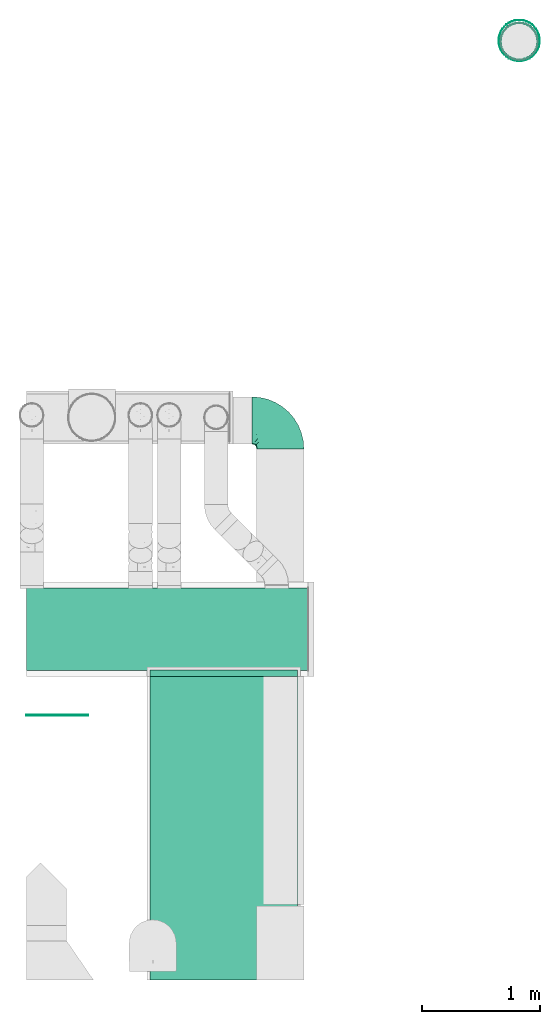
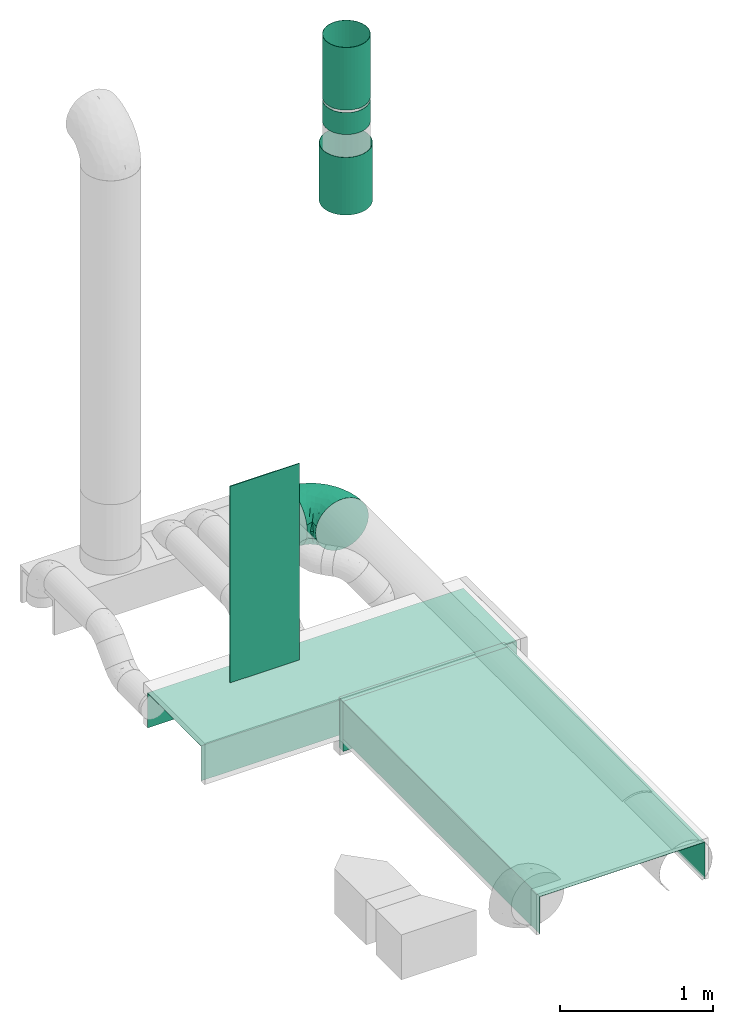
# One storey, part 5 of 9: 5 flow segments, 2 flow fittings, 1 flow terminal.
"""IFC2X3 building model written with IfcOpenShell, lengths in millimetres."""

from ifc_helpers import new_model, entity, si_unit, converted_unit, derived_unit, direction, frame, origin_with_axes, origin_2d_with_axis, place, context, subcontext, project, spatial, hollow_circle, extrude, open_shell, faceted_brep, surface_model, source, transform, mapped, type_object, element, save


model = new_model("IFC2X3")

# Units and contexts
model_context = context("Model", 3, precision=0.01, world=frame((0.0, 4.29681676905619e-09, 0.0)), true_north=direction((4.01073788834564e-13, 1.0)))
plan_context = context("Plan", 3, precision=0.01, world=frame((0.0, 4.29681676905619e-09, 0.0)), true_north=direction((4.01073788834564e-13, 1.0)))
body_context = subcontext(model_context, "Body", "Model", "MODEL_VIEW")
ifc_project = project(units=[converted_unit("PLANEANGLEUNIT", "DEGREE", entity("IfcPositiveLengthMeasure", 0.0174532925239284), si_unit("PLANEANGLEUNIT", "RADIAN"), dimensions=[0, 0, 0, 0, 0, 0, 0]), si_unit("AREAUNIT", "SQUARE_METRE"), si_unit("LENGTHUNIT", "METRE", prefix="MILLI"), si_unit("MASSUNIT", "GRAM", prefix="KILO"), si_unit("POWERUNIT", "WATT"), si_unit("PRESSUREUNIT", "PASCAL"), si_unit("FORCEUNIT", "NEWTON", prefix="KILO"), si_unit("ELECTRICVOLTAGEUNIT", "VOLT"), si_unit("ELECTRICCURRENTUNIT", "AMPERE"), si_unit("THERMODYNAMICTEMPERATUREUNIT", "DEGREE_CELSIUS"), si_unit("TIMEUNIT", "SECOND"), si_unit("VOLUMEUNIT", "CUBIC_METRE"), derived_unit("LINEARVELOCITYUNIT", [(si_unit("LENGTHUNIT", "METRE"), 1), (si_unit("TIMEUNIT", "SECOND"), -1)]), derived_unit("VOLUMETRICFLOWRATEUNIT", [(si_unit("VOLUMEUNIT", "CUBIC_METRE"), 1), (si_unit("TIMEUNIT", "SECOND"), -1)]), derived_unit("THERMALTRANSMITTANCEUNIT", [(si_unit("POWERUNIT", "WATT"), 1), (si_unit("THERMODYNAMICTEMPERATUREUNIT", "KELVIN"), -1), (si_unit("AREAUNIT", "SQUARE_METRE"), -1)]), derived_unit("SOUNDPRESSUREUNIT", [(si_unit("PRESSUREUNIT", "PASCAL"), 1)])], contexts=[model_context, plan_context])

# Site, building, storey
site_placement = place(None, frame((0.0, -4.29681676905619e-09, 0.0), z_axis=(0.0, 0.0, 1.0), x_axis=(1.0, 0.0, 0.0)))
site = spatial("IfcSite", under=ifc_project, at=site_placement, Name="ENGM", CompositionType="ELEMENT")
building_placement = place(site_placement, frame((0.0, 4.29681676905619e-09, 0.0), z_axis=(0.0, 0.0, 1.0), x_axis=(1.0, 0.0, 0.0)))
building = spatial("IfcBuilding", under=site, at=building_placement, Name="TH", CompositionType="ELEMENT")
storey_placement = place(building_placement, frame((0.0, 0.0, 205200.0), z_axis=(0.0, 0.0, 1.0), x_axis=(1.0, 0.0, 0.0)))
storey = spatial("IfcBuildingStorey", under=building, at=storey_placement, Name="Nivå D + 1,2 m", CompositionType="ELEMENT", Elevation=205200.0)

# Flow fittings
duct_fitting_type_1 = type_object("IfcDuctFittingType", Name="magicirc_elbow_short_001", PredefinedType="BEND")
shared_shape_1 = source(origin_with_axes(), body_context, "Body", "SurfaceModel", [
    surface_model("IfcShellBasedSurfaceModel", [(-239.99999, 113.61295, -164.59677), (-239.99999, 70.92098, -187.00325), (-239.99999, 24.10734, -198.54177), (-239.99999, -24.10734, -198.54177), (-239.99999, 194.18836, -47.86313), (-239.99999, 177.09121, -92.94464), (-239.99999, 149.70215, -132.62454), (-239.99999, -113.61295, -164.59677), (-239.99999, -70.92098, -187.00325), (-239.99999, -177.09121, -92.94464), (-239.99999, -149.70215, -132.62454), (-239.99999, -194.18836, -47.86313), (-239.99999, -200.0, 0.0), (-239.99999, -194.18836, 47.86313), (-239.99999, 177.09121, 92.94464), (-239.99999, 194.18836, 47.86313), (-239.99999, 200.0, 0.0), (-239.99999, 149.70215, 132.62454), (-239.99999, 70.92098, 187.00325), (-239.99999, 113.61295, 164.59677), (-239.99999, -70.92098, 187.00325), (-239.99999, -177.09121, 92.94464), (-239.99999, -149.70215, 132.62454), (-239.99999, -113.61295, 164.59677), (-239.99999, -24.10734, 198.54177), (-239.99999, 24.10734, 198.54177), (-24.10734, 239.99999, -198.54177), (-70.92098, 239.99999, -187.00325), (-113.61295, 239.99999, -164.59677), (24.10734, 239.99999, -198.54177), (-149.70215, 239.99999, -132.62454), (-177.09121, 239.99999, -92.94464), (-194.18836, 239.99999, -47.86313), (113.61295, 239.99999, -164.59677), (70.92098, 239.99999, -187.00325), (149.70215, 239.99999, -132.62454), (177.09121, 239.99999, -92.94464), (200.0, 239.99999, 0.0), (194.18836, 239.99999, -47.86313), (-149.70215, 239.99999, 132.62454), (-200.0, 239.99999, 0.0), (-194.18836, 239.99999, 47.86313), (-177.09121, 239.99999, 92.94464), (-113.61295, 239.99999, 164.59677), (-70.92098, 239.99999, 187.00325), (70.92098, 239.99999, 187.00325), (194.18836, 239.99999, 47.86313), (149.70215, 239.99999, 132.62454), (177.09121, 239.99999, 92.94464), (-24.10734, 239.99999, 198.54177), (24.10734, 239.99999, 198.54177), (113.61295, 239.99999, 164.59677), (-196.74515, -191.45888, 50.10643), (-198.87111, -196.76308, 0.0), (-171.16884, -194.58287, 0.0), (118.68499, 0.93084, 59.14165), (141.95567, 48.68496, 70.42569), (123.4118, 55.24638, 109.01288), (-85.70027, 147.62752, 190.73627), (-116.87484, 199.98905, 166.67809), (-121.57599, 167.66155, 172.48905), (-104.03252, -178.46487, 0.0), (-133.81508, -183.40912, 37.14199), (-137.60068, -186.52386, 0.0), (-201.76804, 117.34767, 166.01716), (-128.65485, -105.10762, 157.99706), (-129.47583, -133.32898, 133.02573), (-90.82948, -120.56354, 132.05771), (-110.47564, 129.80302, 187.37183), (-147.23793, 149.37929, 166.82178), (-198.00777, -178.92556, 85.02928), (-181.05065, -147.98037, 129.47636), (84.95853, -31.68087, 79.39368), (66.61723, -22.23529, 115.23983), (54.21667, -52.49221, 97.06346), (176.12005, 157.17049, 77.71445), (147.40687, 184.38924, 130.70861), (153.90874, 117.44137, 101.15258), (-69.33459, 15.23806, 195.49424), (-36.72549, -22.35928, 177.63921), (-20.40654, 20.40651, 187.14274), (-126.64829, -42.31033, 189.41022), (-104.09884, -81.44732, 167.69045), (-69.05755, -54.62915, 172.84079), (-214.9062, 183.19872, 91.38192), (-203.2988, 203.2988, 67.96795), (-187.13549, -110.74372, 163.83744), (-211.26398, 68.18149, 188.86771), (-239.99999, 92.26696, 175.80001), (-194.54111, 27.59648, 198.69772), (-147.80543, 100.44984, 186.30111), (-175.61886, 124.09845, 168.70527), (-79.21636, 211.33879, 184.71574), (-25.86028, 189.24323, 199.0048), (-79.14344, -141.09527, 99.22092), (-196.79415, 171.15937, 121.68265), (-212.86991, 160.76197, 124.84847), (-181.52635, 152.02087, 148.14517), (-220.0, 205.35898, 0.0), (-58.83625, -88.4167, 147.49907), (116.2234, 203.42657, 161.41048), (92.26696, 239.99999, 175.80001), (-185.4702, -22.63651, 197.99654), (-204.01547, -62.89384, 189.1346), (-24.52781, 97.11682, 199.13864), (-49.56556, 133.39657, 198.81296), (-66.10533, 98.39351, 199.37953), (-30.34629, -106.37956, 113.19134), (104.82391, 25.53207, 111.43528), (-119.98345, 72.61455, 197.08288), (-156.96377, 218.9078, 127.21335), (167.12312, 87.64148, 45.74593), (183.40912, 133.81509, 37.14199), (-184.13653, 185.68974, 117.1648), (-182.96856, 214.56254, 92.05973), (191.45888, 196.74515, 50.10643), (144.4228, 31.67779, 33.1102), (68.61526, 186.05131, 186.08553), (196.76308, 198.87111, 0.0), (-19.07525, -59.99967, 149.75146), (178.92556, 198.00777, 85.02928), (140.24497, 148.7445, 131.09665), (-93.34475, -18.2887, 191.69958), (-89.08881, -167.97458, 44.47905), (-114.00758, -154.66645, 98.09796), (-157.17049, -176.12005, 77.71445), (101.17001, -31.2323, 40.53831), (-205.35898, 220.0, 0.0), (7.2216, -25.18453, 158.0566), (16.22747, 11.57272, 171.27795), (-156.86281, -75.63418, 180.37489), (18.26134, -72.60936, 112.30535), (13.4342, -107.2345, 62.80026), (53.58983, -73.10403, 64.77726), (-40.69961, 60.20079, 197.97069), (45.72355, -4.38833, 146.65771), (35.15394, -40.42218, 128.96113), (91.28472, 129.3674, 167.51176), (115.08937, 167.12808, 158.1021), (20.79364, 191.2804, 198.39263), (7.78123, 161.36163, 199.00144), (53.70139, 155.02142, 188.88407), (-67.67034, 172.21058, 192.34122), (-15.98162, 141.15738, 199.94107), (-131.31539, 13.75994, 199.69771), (-145.52939, 50.31948, 198.01673), (-164.75662, 31.5409, 199.15392), (-44.77019, -139.99156, 70.37377), (-164.49132, 172.1255, 144.31316), (45.64327, 86.35853, 181.34613), (66.68327, 112.12605, 177.44128), (34.93762, 125.81661, 191.49433), (120.56354, 90.82948, 132.05771), (-182.60457, 70.05037, 190.59169), (-106.26477, 37.23407, 199.97902), (5.4685, 57.21701, 188.77996), (12.62248, 97.22487, 193.6033), (141.56856, 81.82745, 100.26224), (178.46487, 104.03252, 0.0), (115.96748, -18.62551, 0.0), (134.00517, 10.80933, 0.0), (-159.14819, -4.40914, 199.23858), (75.84299, 19.7026, 137.66396), (92.95751, 47.882, 138.36956), (73.90408, 68.31014, 161.63441), (48.01825, 36.91836, 165.41694), (-152.35849, 189.99394, 143.7092), (-72.13835, -165.25387, 0.0), (-40.24418, -152.04287, 0.0), (-31.59765, -144.44013, 32.79038), (186.52386, 137.60068, 0.0), (194.58287, 171.16884, 0.0), (152.04287, 40.24418, 0.0), (165.25387, 72.13835, 0.0), (-1.76483, -126.08287, 35.7698), (-16.01194, -123.42514, 71.17763), (44.87625, -93.54723, 0.0), (18.62551, -115.96748, 0.0), (-82.84412, 62.85893, 199.97449), (78.64369, -54.27256, 49.64799), (93.54723, -44.87625, 0.0), (-10.80933, -134.00517, 0.0), (71.12699, -71.12699, 0.0), (-218.90782, 156.96377, -127.21335), (-199.98905, 116.87483, -166.67809), (58.90217, -68.82574, -63.09789), (15.32875, -106.16168, -62.0215), (-129.36742, -91.28472, -167.51176), (-167.12808, -115.08937, -158.1021), (-186.05131, -68.61526, -186.08553), (-94.46882, 110.90985, -194.76362), (-129.80304, 110.47563, -187.37183), (-141.77172, 147.59985, -170.13255), (-87.64149, -167.12312, -45.74594), (-48.68496, -141.95568, -70.4257), (-31.67779, -144.4228, -33.1102), (-203.2988, 203.2988, -67.96795), (22.96639, 35.57124, -177.01997), (-14.27814, 70.09048, -195.42708), (18.69405, 93.38622, -191.6005), (-13.86258, -127.36078, -58.07066), (-29.4902, -107.8813, -110.63198), (-68.18149, 211.26398, -188.86771), (-117.34767, 201.76804, -166.01716), (-59.10875, 32.13092, -196.81402), (-97.11686, 24.52781, -199.13864), (-90.55645, 60.71595, -199.89111), (-214.9062, 183.19872, -91.38192), (54.62914, 69.05754, -172.84079), (98.27175, 42.78711, -130.49521), (57.08047, 11.2084, -147.59111), (-184.90419, 185.92532, -116.17097), (-189.99394, 152.35849, -143.7092), (-164.74539, 127.39507, -170.48912), (-196.74515, -191.45888, -50.10643), (102.97814, -25.2107, -50.35981), (-198.00777, -178.92556, -85.02928), (-184.38924, -147.40686, -130.70861), (-20.40654, 20.40651, -187.14274), (-203.42657, -116.2234, -161.41048), (-133.81508, -183.40912, -37.14199), (-157.17049, -176.12005, -77.71445), (-117.44137, -153.90874, -101.15258), (42.31034, 126.64827, -189.4102), (81.44732, 104.09882, -167.69045), (-191.2804, -20.79363, -198.39265), (147.98037, 181.05063, -129.47636), (-129.30436, 59.74472, -197.96346), (-155.13308, 92.66755, -187.36009), (154.66645, 114.00757, -98.09796), (176.12005, 157.17049, -77.71445), (-148.74451, -140.24497, -131.09665), (-160.49961, 212.94523, -125.12823), (-152.02087, 181.52635, -148.14517), (2.79291, -30.76889, -157.17157), (62.89384, 204.01545, -189.1346), (22.63653, 185.4702, -197.99654), (-189.24323, 25.86027, -199.0048), (-27.59649, 194.54111, -198.69772), (-100.44985, 147.80542, -186.30109), (-124.09845, 175.61886, -168.70527), (-182.99884, 214.60769, -91.9709), (110.74372, 187.13549, -163.83744), (-239.99999, -92.26696, -175.80001), (-211.33879, 79.21636, -184.71574), (75.63418, 156.86279, -180.37489), (133.32898, 129.47581, -133.02572), (120.56354, 90.82948, -132.05771), (105.10762, 128.65484, -157.99704), (82.80118, -53.88605, -37.02608), (-92.26696, 239.99999, -175.80001), (123.66564, 51.80383, -106.19757), (139.99155, 44.77018, -70.37377), (117.64841, 16.01817, -82.9314), (128.17291, 6.73281, -40.53314), (178.92556, 198.00777, -85.02928), (183.40912, 133.81509, -37.14199), (167.97458, 89.08881, -44.47905), (191.45888, 196.74515, -50.10643), (142.54299, 78.96912, -96.72635), (-97.56993, -63.71257, -175.75275), (-84.70609, -93.55722, -153.72859), (-144.36304, 26.22191, -199.91576), (-172.21058, 67.67033, -192.34122), (-156.61609, -52.11749, -189.55589), (34.63275, -16.71165, -146.7065), (52.55983, -35.0498, -117.90292), (-36.70515, 165.46479, -198.61787), (-70.05038, 182.60455, -190.59169), (154.76241, 55.00565, -40.00078), (-90.82948, -120.56354, -132.05771), (-57.62963, 136.50036, -197.69037), (-51.22094, -22.77128, -181.71122), (-155.33763, -3.83571, -199.17789), (-81.82746, -141.56857, -100.26224), (-58.13237, -124.31837, -109.76109), (3.06481, 160.45807, -199.37898), (-125.81663, -34.93761, -191.49434), (-87.32259, -32.20055, -186.55362), (-114.50768, -4.03185, -197.01795), (-57.25678, -70.84455, -159.56181), (-14.82192, -65.35197, -143.41341), (-13.75995, 131.31536, -199.69771), (-168.83955, 164.28561, -146.55529), (18.26134, -72.60936, -112.30535), (79.70862, -39.92682, -76.14325), (90.8179, -6.60485, -101.00831), (-32.52854, 105.18753, -199.86215), (-62.85894, 82.8441, -199.97449)], [open_shell([[[0, 1, 2]], [[0, 2, 3]], [[4, 5, 6]], [[7, 6, 0]], [[6, 7, 4]], [[8, 7, 3]], [[7, 0, 3]], [[9, 7, 10]], [[9, 11, 12]], [[4, 7, 9]], [[9, 12, 4]], [[12, 13, 4]], [[14, 15, 16]], [[17, 14, 16]], [[18, 19, 17]], [[13, 17, 16]], [[18, 17, 20]], [[21, 22, 13]], [[23, 13, 22]], [[20, 24, 25]], [[20, 13, 23]], [[20, 17, 13]], [[20, 25, 18]], [[4, 13, 16]], [[26, 27, 28]], [[29, 26, 28]], [[30, 31, 32]], [[28, 30, 33]], [[32, 33, 30]], [[29, 33, 34]], [[29, 28, 33]], [[35, 33, 36]], [[37, 38, 36]], [[36, 33, 32]], [[32, 37, 36]], [[32, 39, 37]], [[40, 41, 42]], [[40, 42, 39]], [[39, 43, 44]], [[45, 37, 39]], [[45, 39, 44]], [[46, 47, 48]], [[46, 37, 47]], [[49, 50, 45]], [[37, 51, 47]], [[45, 51, 37]], [[44, 49, 45]], [[39, 32, 40]], [[52, 53, 54]], [[55, 56, 57]], [[58, 59, 60]], [[52, 13, 53]], [[61, 62, 63]], [[19, 64, 17]], [[65, 66, 67]], [[68, 60, 69]], [[21, 70, 22]], [[70, 71, 22]], [[72, 73, 74]], [[22, 71, 23]], [[75, 76, 77]], [[13, 52, 21]], [[78, 79, 80]], [[81, 82, 83]], [[15, 84, 85]], [[20, 23, 86]], [[87, 88, 18]], [[25, 89, 18]], [[64, 90, 91]], [[92, 93, 44]], [[23, 71, 86]], [[66, 94, 67]], [[19, 87, 64]], [[95, 96, 97]], [[85, 16, 15]], [[16, 85, 98]], [[82, 99, 83]], [[100, 51, 101]], [[89, 25, 102]], [[20, 103, 24]], [[14, 84, 15]], [[104, 105, 106]], [[67, 94, 107]], [[55, 108, 72]], [[109, 68, 90]], [[110, 39, 42]], [[75, 111, 112]], [[113, 114, 85]], [[112, 115, 75]], [[116, 111, 56]], [[47, 51, 76]], [[45, 117, 100]], [[115, 118, 46]], [[99, 119, 83]], [[120, 47, 76]], [[115, 46, 48]], [[76, 100, 121]], [[100, 76, 51]], [[79, 78, 122]], [[59, 92, 43]], [[123, 124, 125]], [[72, 126, 55]], [[103, 102, 24]], [[40, 85, 41]], [[85, 40, 127]], [[85, 127, 98]], [[44, 93, 49]], [[45, 50, 117]], [[128, 129, 80]], [[85, 84, 113]], [[130, 81, 102]], [[59, 39, 110]], [[131, 132, 133]], [[106, 134, 104]], [[39, 59, 43]], [[41, 85, 114]], [[135, 128, 136]], [[137, 138, 117]], [[139, 117, 50]], [[24, 102, 25]], [[139, 140, 141]], [[92, 44, 43]], [[124, 71, 125]], [[142, 105, 143]], [[67, 82, 65]], [[130, 82, 81]], [[144, 145, 146]], [[58, 60, 68]], [[92, 59, 142]], [[125, 62, 123]], [[123, 147, 94]], [[148, 113, 95]], [[107, 132, 131]], [[50, 49, 139]], [[149, 150, 151]], [[121, 152, 77]], [[120, 76, 75]], [[90, 64, 153]], [[64, 91, 96]], [[154, 145, 144]], [[90, 68, 69]], [[154, 144, 122]], [[80, 129, 155]], [[104, 156, 143]], [[104, 143, 105]], [[157, 77, 152]], [[112, 111, 158]], [[57, 56, 157]], [[55, 159, 160]], [[71, 124, 66]], [[103, 86, 130]], [[146, 161, 144]], [[19, 88, 87]], [[49, 93, 139]], [[93, 143, 140]], [[138, 137, 152]], [[108, 162, 73]], [[162, 163, 164]], [[79, 128, 80]], [[156, 104, 155]], [[164, 165, 162]], [[150, 141, 151]], [[164, 152, 137]], [[122, 81, 83]], [[81, 122, 161]], [[96, 84, 14]], [[96, 95, 84]], [[148, 97, 69]], [[166, 110, 114]], [[166, 114, 113]], [[41, 114, 42]], [[14, 17, 96]], [[64, 96, 17]], [[52, 54, 63]], [[70, 21, 52]], [[62, 61, 123]], [[63, 62, 52]], [[52, 62, 125]], [[123, 61, 167]], [[123, 168, 169]], [[48, 120, 115]], [[115, 170, 171]], [[115, 112, 170]], [[158, 170, 112]], [[111, 75, 77]], [[111, 77, 157]], [[111, 172, 173]], [[65, 82, 130]], [[99, 67, 107]], [[169, 174, 175]], [[119, 99, 107]], [[175, 147, 169]], [[132, 176, 133]], [[174, 177, 132]], [[116, 160, 172]], [[67, 99, 82]], [[119, 107, 131]], [[136, 128, 119]], [[79, 83, 119]], [[128, 79, 119]], [[134, 78, 80]], [[154, 78, 178]], [[144, 161, 122]], [[136, 119, 131]], [[128, 135, 129]], [[74, 131, 133]], [[73, 135, 136]], [[74, 73, 136]], [[108, 73, 72]], [[131, 74, 136]], [[74, 133, 179]], [[135, 165, 129]], [[155, 104, 134]], [[165, 155, 129]], [[149, 165, 164]], [[162, 165, 135]], [[149, 151, 156]], [[73, 162, 135]], [[162, 108, 163]], [[149, 155, 165]], [[139, 93, 140]], [[151, 143, 156]], [[142, 143, 93]], [[149, 156, 155]], [[150, 164, 137]], [[164, 150, 149]], [[141, 137, 117]], [[137, 141, 150]], [[139, 141, 117]], [[142, 58, 105]], [[106, 178, 134]], [[58, 106, 105]], [[68, 178, 106]], [[59, 58, 142]], [[106, 58, 68]], [[59, 166, 60]], [[166, 113, 148]], [[166, 69, 60]], [[69, 97, 91]], [[78, 134, 178]], [[155, 134, 80]], [[130, 86, 65]], [[66, 124, 94]], [[65, 86, 66]], [[71, 66, 86]], [[72, 179, 126]], [[111, 116, 172]], [[79, 122, 83]], [[154, 122, 78]], [[52, 125, 70]], [[70, 125, 71]], [[47, 120, 48]], [[75, 115, 120]], [[57, 163, 108]], [[152, 164, 163]], [[143, 151, 140]], [[141, 140, 151]], [[178, 109, 154]], [[145, 90, 153]], [[145, 154, 109]], [[153, 87, 146]], [[68, 109, 178]], [[145, 109, 90]], [[153, 146, 145]], [[161, 89, 102]], [[89, 161, 146]], [[81, 161, 102]], [[179, 180, 126]], [[55, 126, 159]], [[55, 160, 116]], [[55, 116, 56]], [[13, 12, 53]], [[118, 115, 171]], [[118, 37, 46]], [[93, 92, 142]], [[86, 103, 20]], [[102, 103, 130]], [[114, 110, 42]], [[59, 110, 166]], [[100, 117, 138]], [[45, 100, 101]], [[100, 138, 121]], [[153, 64, 87]], [[18, 89, 87]], [[146, 87, 89]], [[123, 94, 124]], [[107, 94, 147]], [[169, 168, 181]], [[174, 169, 181]], [[123, 169, 147]], [[177, 174, 181]], [[174, 132, 175]], [[132, 107, 175]], [[107, 147, 175]], [[69, 91, 90]], [[96, 91, 97]], [[152, 121, 138]], [[77, 76, 121]], [[57, 157, 152]], [[111, 157, 56]], [[163, 57, 152]], [[57, 108, 55]], [[148, 95, 97]], [[84, 95, 113]], [[176, 132, 177]], [[168, 123, 167]], [[173, 158, 111]], [[176, 182, 133]], [[69, 166, 148]], [[72, 74, 179]], [[159, 126, 180]], [[133, 182, 179]], [[180, 179, 182]], [[183, 184, 6]], [[185, 176, 186]], [[187, 188, 189]], [[190, 191, 192]], [[193, 194, 195]], [[183, 6, 5]], [[98, 196, 16]], [[197, 198, 199]], [[186, 200, 201]], [[202, 203, 28]], [[196, 4, 16]], [[204, 205, 206]], [[6, 184, 0]], [[207, 5, 4]], [[208, 209, 210]], [[211, 212, 207]], [[38, 37, 118]], [[191, 213, 192]], [[214, 53, 11]], [[215, 159, 180]], [[11, 9, 214]], [[28, 203, 30]], [[216, 10, 217]], [[198, 197, 218]], [[8, 189, 219]], [[7, 219, 217]], [[220, 214, 221]], [[220, 221, 193]], [[221, 217, 222]], [[223, 224, 208]], [[189, 3, 225]], [[217, 10, 7]], [[35, 226, 33]], [[191, 227, 228]], [[196, 98, 127]], [[229, 226, 230]], [[40, 32, 196]], [[217, 219, 231]], [[211, 232, 233]], [[234, 218, 197]], [[235, 236, 29]], [[196, 207, 4]], [[1, 237, 2]], [[236, 238, 26]], [[203, 239, 240]], [[31, 241, 32]], [[33, 226, 242]], [[34, 235, 29]], [[219, 7, 243]], [[0, 244, 1]], [[245, 223, 236]], [[26, 238, 27]], [[29, 236, 26]], [[33, 242, 34]], [[246, 247, 248]], [[182, 249, 180]], [[202, 250, 27]], [[251, 252, 253]], [[215, 254, 159]], [[244, 237, 1]], [[255, 35, 36]], [[255, 226, 35]], [[170, 158, 256]], [[257, 229, 230]], [[118, 171, 258]], [[38, 118, 258]], [[251, 259, 252]], [[206, 205, 227]], [[8, 3, 189]], [[36, 38, 258]], [[187, 260, 261]], [[211, 241, 232]], [[262, 237, 263]], [[40, 196, 127]], [[264, 189, 225]], [[265, 210, 266]], [[247, 224, 248]], [[245, 224, 223]], [[267, 268, 202]], [[228, 213, 191]], [[244, 184, 263]], [[230, 256, 257]], [[269, 259, 257]], [[269, 160, 254]], [[253, 209, 251]], [[3, 2, 225]], [[188, 187, 270]], [[231, 270, 222]], [[216, 217, 221]], [[239, 203, 268]], [[203, 240, 232]], [[268, 267, 271]], [[190, 192, 239]], [[271, 239, 268]], [[272, 218, 234]], [[262, 273, 237]], [[205, 262, 227]], [[274, 222, 270]], [[220, 193, 61]], [[274, 275, 194]], [[195, 200, 181]], [[226, 229, 246]], [[235, 242, 245]], [[276, 238, 236]], [[28, 250, 202]], [[2, 237, 225]], [[225, 237, 273]], [[264, 187, 189]], [[260, 277, 278]], [[278, 279, 205]], [[280, 281, 201]], [[199, 223, 208]], [[276, 223, 282]], [[211, 207, 196]], [[183, 207, 212]], [[241, 211, 196]], [[211, 233, 283]], [[32, 241, 196]], [[241, 31, 232]], [[31, 30, 232]], [[203, 232, 30]], [[9, 216, 214]], [[214, 63, 54]], [[214, 220, 63]], [[61, 63, 220]], [[193, 221, 222]], [[193, 222, 274]], [[193, 168, 167]], [[258, 171, 170]], [[255, 36, 258]], [[256, 158, 257]], [[170, 256, 258]], [[258, 256, 230]], [[257, 158, 173]], [[257, 173, 269]], [[275, 261, 201]], [[186, 201, 284]], [[186, 284, 185]], [[193, 195, 168]], [[266, 185, 284]], [[249, 182, 185]], [[248, 224, 245]], [[209, 224, 247]], [[249, 285, 215]], [[249, 215, 180]], [[254, 253, 252]], [[253, 215, 286]], [[254, 252, 269]], [[215, 253, 254]], [[253, 286, 209]], [[210, 209, 286]], [[224, 209, 208]], [[266, 210, 286]], [[197, 208, 210]], [[209, 247, 251]], [[247, 246, 259]], [[247, 259, 251]], [[257, 259, 229]], [[266, 286, 285]], [[266, 284, 234]], [[284, 281, 234]], [[234, 281, 272]], [[279, 278, 277]], [[204, 272, 205]], [[245, 242, 248]], [[160, 159, 254]], [[246, 229, 259]], [[248, 242, 246]], [[226, 246, 242]], [[197, 210, 265]], [[204, 198, 218]], [[287, 288, 271]], [[282, 223, 199]], [[197, 199, 208]], [[199, 198, 287]], [[10, 216, 9]], [[221, 214, 216]], [[258, 230, 255]], [[255, 230, 226]], [[227, 262, 263]], [[279, 262, 205]], [[228, 227, 263]], [[191, 190, 206]], [[191, 206, 227]], [[288, 198, 204]], [[288, 204, 206]], [[272, 204, 218]], [[263, 184, 228]], [[213, 184, 212]], [[184, 213, 228]], [[192, 283, 233]], [[283, 213, 212]], [[192, 233, 240]], [[213, 283, 192]], [[211, 283, 212]], [[278, 205, 272]], [[273, 279, 277]], [[272, 280, 278]], [[260, 278, 280]], [[261, 260, 280]], [[264, 260, 187]], [[201, 261, 280]], [[187, 261, 270]], [[279, 273, 262]], [[273, 277, 264]], [[53, 214, 54]], [[53, 12, 11]], [[184, 244, 0]], [[237, 244, 263]], [[242, 235, 34]], [[236, 235, 245]], [[207, 183, 5]], [[184, 183, 212]], [[219, 189, 188]], [[231, 219, 188]], [[8, 219, 243]], [[268, 203, 202]], [[27, 238, 202]], [[267, 202, 238]], [[287, 271, 282]], [[190, 271, 288]], [[192, 240, 239]], [[232, 240, 233]], [[271, 190, 239]], [[206, 190, 288]], [[270, 231, 188]], [[222, 217, 231]], [[275, 274, 270]], [[193, 274, 194]], [[261, 275, 270]], [[275, 201, 200]], [[200, 177, 181]], [[181, 168, 195]], [[200, 195, 194]], [[200, 194, 275]], [[200, 186, 177]], [[223, 276, 236]], [[267, 276, 282]], [[276, 267, 238]], [[271, 267, 282]], [[273, 264, 225]], [[264, 277, 260]], [[269, 172, 160]], [[167, 61, 193]], [[269, 173, 172]], [[259, 269, 252]], [[176, 185, 182]], [[176, 177, 186]], [[285, 249, 185]], [[266, 285, 185]], [[286, 215, 285]], [[266, 234, 265]], [[197, 265, 234]], [[201, 281, 284]], [[272, 281, 280]], [[199, 287, 282]], [[288, 287, 198]]])]),
])
flow_fitting_1_placement = place(storey_placement, frame((897261.87521, 480772.12038, 4160.0), z_axis=(0.0, 0.0, 1.0), x_axis=(0.0, 1.0, 0.0)))
element("IfcFlowFitting", 1, at=flow_fitting_1_placement, inside=storey, type_object=duct_fitting_type_1, Name="magicirc_elbow_short_001", context=body_context, shape_type="MappedRepresentation", body=[
    mapped(shared_shape_1, transform((0.0, 0.0, 0.0), scale=1.0)),
])
duct_fitting_type_2 = type_object("IfcDuctFittingType", Name="magirect_outlet1_001 2", PredefinedType="CONNECTOR")
shared_shape_2 = source(origin_with_axes(), body_context, "Body", "SurfaceModel", [
    surface_model("IfcShellBasedSurfaceModel", [(-6.096, 625.0, 200.0), (-6.096, 625.0, -200.0), (-6.096, -625.0, -200.0), (-6.096, -625.0, 200.0), (50.0, 625.0, -200.0), (50.0, 625.0, 200.0), (50.0, -625.0, -200.0), (50.0, -625.0, 200.0)], [open_shell([[[0, 1, 2]], [[2, 3, 0]], [[1, 0, 4]], [[5, 4, 0]], [[2, 1, 6]], [[4, 6, 1]], [[3, 2, 6]], [[6, 7, 3]], [[0, 3, 7]], [[7, 5, 0]], [[4, 5, 6]], [[7, 6, 5]]])]),
])
flow_fitting_2_placement = place(storey_placement, frame((896782.4673, 478655.09136, 4100.0), z_axis=(0.0, 0.0, -1.0), x_axis=(0.0, -1.0, 0.0)))
element("IfcFlowFitting", 2, at=flow_fitting_2_placement, inside=storey, type_object=duct_fitting_type_2, Name="magirect_outlet1_001 2", context=body_context, shape_type="MappedRepresentation", body=[
    mapped(shared_shape_2, transform((0.0, 0.0, 0.0), scale=1.0)),
])

# Flow segments
duct_segment_type_1 = type_object("IfcDuctSegmentType", Name="KK002T - Spiro kanaler, Forsinket stål, korte bend", PredefinedType="RIGIDSEGMENT")
shared_shape_3 = source(origin_with_axes(), body_context, "Body", "SweptSolid", [
    extrude(hollow_circle(Radius=157.5, WallThickness=2.0, at=origin_2d_with_axis()), frame((0.0, 0.0, 0.0), z_axis=(1.0, 0.0, 0.0), x_axis=(0.0, 1.0, 0.0)), (0.0, 0.0, 1.0), 500.0),
])
flow_segment_1_placement = place(storey_placement, frame((899285.21977, 483980.77639, 4775.5), z_axis=(0.0, 1.0, 0.0), x_axis=(0.0, 0.0, 1.0)))
element("IfcFlowSegment", 3, at=flow_segment_1_placement, inside=storey, type_object=duct_segment_type_1, Name="KK002T - Spiro kanaler, Forsinket stål, korte bend", context=body_context, shape_type="MappedRepresentation", body=[
    mapped(shared_shape_3, transform((0.0, 0.0, 0.0), scale=1.0)),
])
shared_shape_4 = source(origin_with_axes(), body_context, "Body", "SweptSolid", [
    extrude(hollow_circle(Radius=175.0, WallThickness=2.0, at=origin_2d_with_axis()), frame((0.0, 0.0, 0.0), z_axis=(1.0, 0.0, 0.0), x_axis=(0.0, 1.0, 0.0)), (0.0, 0.0, 1.0), 460.0),
])
flow_segment_2_placement = place(storey_placement, frame((899285.21977, 483988.27639, 3945.5), z_axis=(0.0, 1.0, 0.0), x_axis=(0.0, 0.0, 1.0)))
element("IfcFlowSegment", 4, at=flow_segment_2_placement, inside=storey, type_object=duct_segment_type_1, Name="KK002T - Spiro kanaler, Forsinket stål, korte bend", context=body_context, shape_type="MappedRepresentation", body=[
    mapped(shared_shape_4, transform((0.0, 0.0, 0.0), scale=1.0)),
])
shared_shape_5 = source(origin_with_axes(), body_context, "Body", "SweptSolid", [
    extrude(hollow_circle(Radius=157.5, WallThickness=2.0, at=origin_2d_with_axis()), frame((0.0, 0.0, 0.0), z_axis=(1.0, 0.0, 0.0), x_axis=(0.0, 1.0, 0.0)), (0.0, 0.0, 1.0), 174.3),
])
flow_segment_3_placement = place(storey_placement, frame((899285.21977, 483980.77639, 4581.25), z_axis=(1.0, 0.0, 0.0), x_axis=(0.0, 0.0, 1.0)))
element("IfcFlowSegment", 5, at=flow_segment_3_placement, inside=storey, type_object=duct_segment_type_1, Name="KK002T - Spiro kanaler, Forsinket stål, korte bend", context=body_context, shape_type="MappedRepresentation", body=[
    mapped(shared_shape_5, transform((0.0, 0.0, 0.0), scale=1.0)),
])

# Flow terminal
air_terminal_type = type_object("IfcAirTerminalType", Name="BRTR-2000-1150", PredefinedType="NOTDEFINED")
flow_terminal_placement = place(storey_placement, frame((894606.4875, 478278.72728, 5800.0), z_axis=(0.0, 0.0, 1.0), x_axis=(0.0, -1.0, 0.0)))
element("IfcFlowTerminal", 6, at=flow_terminal_placement, inside=storey, type_object=air_terminal_type, Name="BRTR-2000-1150", context=body_context, shape_type="Brep", body=[
    faceted_brep([(6.0, 505.418668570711, 784.99998), (4.47209322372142, 505.418668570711, 784.99998), (6.0, 1029.99999, 784.99998), (0.0, 505.418668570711, 784.99998), (0.0, 1029.99999, 784.99998), (1.52790677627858, 505.418668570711, -784.99998), (6.0, 505.418668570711, -784.99998), (6.0, 1029.99999, -784.99998), (0.0, 1029.99999, -784.99998), (0.0, 505.418668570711, -784.99998), (6.0, 505.418668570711, 385.197717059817), (0.0, 505.418668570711, -385.197717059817)], [[[0, 1, 2]], [[1, 3, 4, 2]], [[5, 6, 7, 8]], [[9, 5, 8]], [[10, 0, 2]], [[6, 10, 2, 7]], [[7, 2, 4]], [[4, 8, 7]], [[3, 11, 8, 4]], [[11, 9, 8]], [[10, 6, 5, 9, 11, 3, 1, 0]]], orient=[[False], [False], [False], [False], [False], [False], [False], [False], [False], [False], [False]]),
])

# Flow segments
duct_segment_type_2 = type_object("IfcDuctSegmentType", Name="KK002T - Rektangulære, Forsinket stål", PredefinedType="RIGIDSEGMENT")
flow_segment_4_placement = place(storey_placement, frame((893902.4673, 479005.09136, 4080.0), z_axis=(0.0, 0.0, 1.0), x_axis=(1.0, 0.0, 0.0)))
element("IfcFlowSegment", 7, at=flow_segment_4_placement, inside=storey, type_object=duct_segment_type_2, Name="KK002T - Rektangulære, Forsinket stål", context=body_context, shape_type="Brep", body=[
    faceted_brep([(1209.43886857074, -348.0, 198.0), (1209.43886857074, -348.0, -80.0), (3595.0, -348.0, -80.0), (3595.0, -348.0, 198.0), (1209.43886857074, 348.0, 198.0), (3595.0, 348.0, 198.0), (3595.0, 348.0, -80.0), (1209.43886857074, 348.0, -80.0), (1209.43886857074, 350.0, 200.0), (1209.43886857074, 350.0, -80.0), (3595.0, 350.0, -80.0), (3595.0, 350.0, 200.0), (1209.43886857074, -350.0, 200.0), (3595.0, -350.0, 200.0), (3595.0, -350.0, -80.0), (1209.43886857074, -350.0, -80.0)], [[[0, 1, 2, 3]], [[4, 0, 3, 5]], [[6, 7, 4, 5]], [[8, 9, 10, 11]], [[12, 8, 11, 13]], [[14, 15, 12, 13]], [[10, 6, 5, 3, 2, 14, 13, 11]], [[9, 8, 12, 15, 1, 0, 4, 7]], [[15, 14, 2, 1]], [[7, 6, 10, 9]]], orient=[[False], [False], [False], [False], [False], [False], [False], [False], [False], [False]]),
])
flow_segment_5_placement = place(storey_placement, frame((896782.4673, 478605.09136, 4100.0), z_axis=(0.0, 0.0, 1.0), x_axis=(0.0, -1.0, 0.0)))
element("IfcFlowSegment", 8, at=flow_segment_5_placement, inside=storey, type_object=duct_segment_type_2, Name="KK002T - Rektangulære, Forsinket stål", context=body_context, shape_type="Brep", body=[
    faceted_brep([(0.0, -623.0, -100.0), (2570.41443911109, -622.999999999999, -100.0), (2570.41443911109, -623.0, 198.0), (0.0, -623.0, 198.0), (2570.41443911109, 623.0, 198.0), (0.0, 623.0, 198.0), (2570.41443911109, 623.000000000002, -100.0), (0.0, 623.0, -100.0), (0.0, 625.0, -100.0), (2570.41443911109, 625.0, -100.0), (2570.41443911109, 625.0, 200.0), (0.0, 625.0, 200.0), (2570.41443911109, -625.0, 200.0), (0.0, -625.0, 200.0), (2570.41443911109, -624.999999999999, -100.0), (0.0, -625.0, -100.0)], [[[0, 1, 2, 3]], [[2, 4, 5, 3]], [[4, 6, 7, 5]], [[8, 9, 10, 11]], [[10, 12, 13, 11]], [[12, 14, 15, 13]], [[15, 0, 3, 5, 7, 8, 11, 13]], [[14, 12, 10, 9, 6, 4, 2, 1]], [[1, 0, 15, 14]], [[9, 8, 7, 6]]], orient=[[False], [False], [False], [False], [False], [False], [False], [False], [False], [False]]),
])

save(model, "model.ifc")
